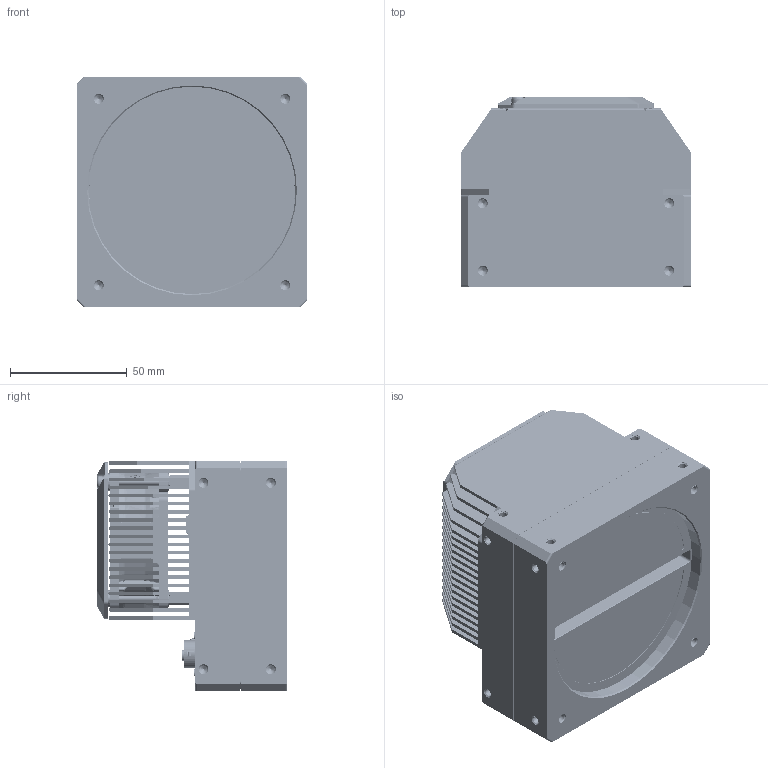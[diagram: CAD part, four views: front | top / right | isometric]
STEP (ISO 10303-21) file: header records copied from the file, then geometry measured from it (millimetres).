
FILE_DESCRIPTION((''),'2;1');
FILE_NAME('0-CL161-B1Y4M_ASM_ASM_ASM','2025-12-24T21:01:27',('zhangqianwen8'),(''),'CREO PARAMETRIC BY PTC INC, 2020044','CREO PARAMETRIC BY PTC INC, 2020044','');
FILE_SCHEMA(('CONFIG_CONTROL_DESIGN'));
Products named in the file (51): MSBR-49; MSBR-48; MSBR-47; MSBR-46; MSBR-45; MSBR-44; MSBR-43; MSBR-42; MSBR-41; MSBR-40; MSBR-39; MSBR-38; MSBR-37; MSBR-36; MSBR-35; MSBR-34; MSBR-33; MSBR-32; MSBR-31; MSBR-30; MSBR-29; MSBR-28; MSBR-27; MSBR-26; MSBR-25; MSBR-24; MSBR-23; MSBR-22; MSBR-21; MSBR-20; MSBR-19; MSBR-18; MSBR-17; MSBR-16; MSBR-15; MSBR-14; MSBR-13; MSBR-12; MSBR-11; MSBR-10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
Assembly tree (50 placements, depth 2):
  0-CL161-B1Y4M_ASM_ASM_ASM
    MSBR-49
    MSBR-48
    MSBR-47
    MSBR-46
    MSBR-45
    MSBR-44
    MSBR-43
    MSBR-42
    MSBR-41
    MSBR-40
    MSBR-39
    MSBR-38
    MSBR-37
    MSBR-36
    MSBR-35
    MSBR-34
    MSBR-33
    MSBR-32
    MSBR-31
    MSBR-30
    MSBR-29
    MSBR-28
    MSBR-27
    MSBR-26
    MSBR-25
    MSBR-24
    MSBR-23
    MSBR-22
    MSBR-21
    MSBR-20
    MSBR-19
    MSBR-18
    MSBR-17
    MSBR-16
    MSBR-15
    MSBR-14
    MSBR-13
    MSBR-12
    MSBR-11
    MSBR-10
    MSBR-9
    MSBR-8
    MSBR-7
    MSBR-6
    MSBR-5
    MSBR-4
    MSBR-3
    MSBR-2
    MSBR-1
    _0-CL161-B1Y4M_ASM_ASM
Bounding box: 99 x 81.65 x 99 mm (x, y, z)
Volume: 389832.6 mm3; surface area: 213783.7 mm2
Topology: 49 solids, 136 shells, 11469 faces, 31569 edges, 20736 vertices
Faces by surface type: plane 7259, cylinder 2619, cone 924, bspline 410, torus 222, sphere 22, extrusion 13
Entity records: 428259 total; most frequent: CARTESIAN_POINT 136717, ORIENTED_EDGE 62136, DIRECTION 57401, EDGE_CURVE 31394, VECTOR 21057, LINE 21044, VERTEX_POINT 20734, AXIS2_PLACEMENT_3D 18172
